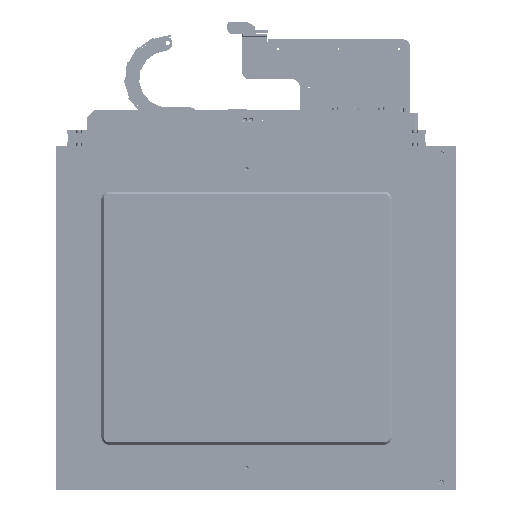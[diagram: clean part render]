
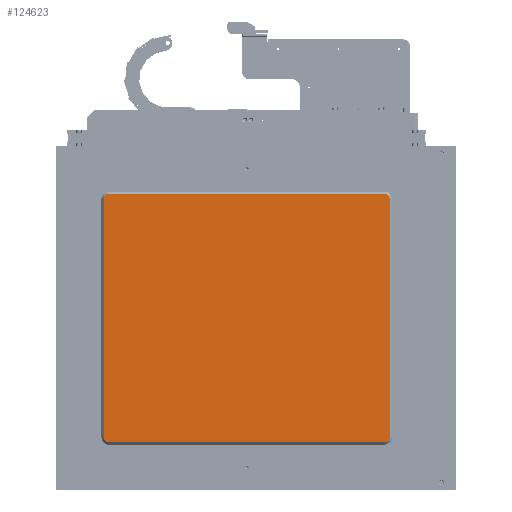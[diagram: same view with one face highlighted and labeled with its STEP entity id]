
A CAD part, top view. The second image highlights one B-rep face of the part: STEP entity #124623.
In plain terms, the highlighted planar face has unit normal (0, 0, 1).
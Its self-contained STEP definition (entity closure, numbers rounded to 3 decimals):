
#11308=CIRCLE('',#137695,7.);
#11309=CIRCLE('',#137697,7.);
#11310=CIRCLE('',#137701,7.);
#11313=CIRCLE('',#137705,7.);
#18087=FACE_OUTER_BOUND('',#26097,.T.);
#26097=EDGE_LOOP('',(#107650,#107651,#107652,#107653,#107654,#107655,#107656,
#107657));
#36264=LINE('',#211774,#46444);
#36269=LINE('',#211788,#46449);
#36272=LINE('',#211793,#46452);
#36276=LINE('',#211808,#46456);
#46444=VECTOR('',#173316,10.);
#46449=VECTOR('',#173331,10.);
#46452=VECTOR('',#173336,10.);
#46456=VECTOR('',#173354,10.);
#57354=VERTEX_POINT('',#211771);
#57355=VERTEX_POINT('',#211773);
#57356=VERTEX_POINT('',#211777);
#57357=VERTEX_POINT('',#211781);
#57359=VERTEX_POINT('',#211786);
#57360=VERTEX_POINT('',#211791);
#57362=VERTEX_POINT('',#211796);
#57363=VERTEX_POINT('',#211801);
#74110=EDGE_CURVE('',#57354,#57355,#36264,.T.);
#74113=EDGE_CURVE('',#57356,#57354,#11308,.T.);
#74115=EDGE_CURVE('',#57355,#57357,#11309,.T.);
#74117=EDGE_CURVE('',#57359,#57356,#36269,.T.);
#74120=EDGE_CURVE('',#57357,#57360,#36272,.T.);
#74122=EDGE_CURVE('',#57362,#57359,#11310,.T.);
#74126=EDGE_CURVE('',#57360,#57363,#11313,.T.);
#74128=EDGE_CURVE('',#57363,#57362,#36276,.T.);
#107650=ORIENTED_EDGE('',*,*,#74110,.F.);
#107651=ORIENTED_EDGE('',*,*,#74113,.F.);
#107652=ORIENTED_EDGE('',*,*,#74117,.F.);
#107653=ORIENTED_EDGE('',*,*,#74122,.F.);
#107654=ORIENTED_EDGE('',*,*,#74128,.F.);
#107655=ORIENTED_EDGE('',*,*,#74126,.F.);
#107656=ORIENTED_EDGE('',*,*,#74120,.F.);
#107657=ORIENTED_EDGE('',*,*,#74115,.F.);
#111104=PLANE('',#137709);
#124623=ADVANCED_FACE('',(#18087),#111104,.T.);
#137695=AXIS2_PLACEMENT_3D('',#211779,#173321,#173322);
#137697=AXIS2_PLACEMENT_3D('',#211783,#173326,#173327);
#137701=AXIS2_PLACEMENT_3D('',#211798,#173340,#173341);
#137705=AXIS2_PLACEMENT_3D('',#211805,#173349,#173350);
#137709=AXIS2_PLACEMENT_3D('',#211813,#173361,#173362);
#173316=DIRECTION('',(0.,1.,0.));
#173321=DIRECTION('center_axis',(0.,0.,-1.));
#173322=DIRECTION('ref_axis',(-0.707,-0.707,0.));
#173326=DIRECTION('center_axis',(0.,0.,-1.));
#173327=DIRECTION('ref_axis',(-0.707,0.707,0.));
#173331=DIRECTION('',(-1.,0.,0.));
#173336=DIRECTION('',(1.,0.,0.));
#173340=DIRECTION('center_axis',(0.,0.,-1.));
#173341=DIRECTION('ref_axis',(0.707,-0.707,0.));
#173349=DIRECTION('center_axis',(0.,0.,-1.));
#173350=DIRECTION('ref_axis',(0.707,0.707,0.));
#173354=DIRECTION('',(0.,-1.,0.));
#173361=DIRECTION('center_axis',(0.,0.,1.));
#173362=DIRECTION('ref_axis',(1.,0.,0.));
#211771=CARTESIAN_POINT('',(3.,10.,8.));
#211773=CARTESIAN_POINT('',(3.,329.,8.));
#211774=CARTESIAN_POINT('',(3.,84.75,8.));
#211777=CARTESIAN_POINT('',(10.,3.,8.));
#211779=CARTESIAN_POINT('Origin',(10.,10.,8.));
#211781=CARTESIAN_POINT('',(10.,336.,8.));
#211783=CARTESIAN_POINT('Origin',(10.,329.,8.));
#211786=CARTESIAN_POINT('',(379.,3.,8.));
#211788=CARTESIAN_POINT('',(291.75,3.,8.));
#211791=CARTESIAN_POINT('',(379.,336.,8.));
#211793=CARTESIAN_POINT('',(97.25,336.,8.));
#211796=CARTESIAN_POINT('',(386.,10.,8.));
#211798=CARTESIAN_POINT('Origin',(379.,10.,8.));
#211801=CARTESIAN_POINT('',(386.,329.,8.));
#211805=CARTESIAN_POINT('Origin',(379.,329.,8.));
#211808=CARTESIAN_POINT('',(386.,254.25,8.));
#211813=CARTESIAN_POINT('Origin',(194.5,169.5,8.));
